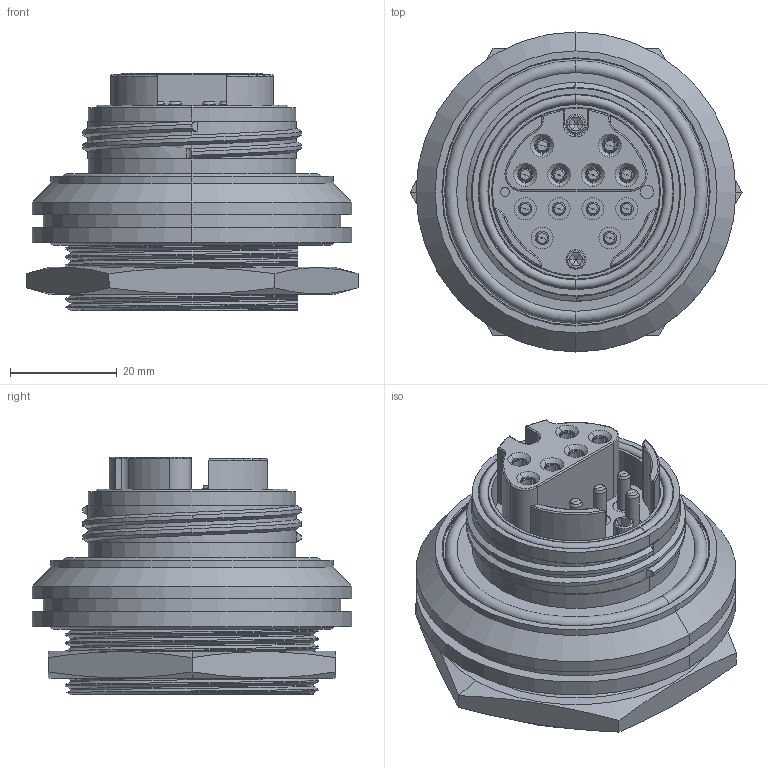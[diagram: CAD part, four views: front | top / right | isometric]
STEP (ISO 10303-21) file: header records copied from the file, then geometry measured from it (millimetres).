
FILE_DESCRIPTION (( 'STEP AP214' ), '1' );
FILE_NAME ('QFOCA-RJXX-12CH-X-S0X.STEP', '2025-06-09T20:14:26', ( '' ), ( '' ), 'SwSTEP 2.0', 'SolidWorks 2024', '' );
FILE_SCHEMA (( 'AUTOMOTIVE_DESIGN' ));
Length unit declared in the file: inch
Products named in the file (1): QFOCA-RJXX-12CH-X-S0X
Bounding box: 62.33 x 60.07 x 44.5 mm (x, y, z)
Volume: 64908.5 mm3; surface area: 28959.3 mm2
Topology: 10 solids, 12 shells, 681 faces, 1579 edges, 988 vertices
Faces by surface type: cylinder 289, plane 167, torus 108, cone 83, bspline 34
Entity records: 29439 total; most frequent: CARTESIAN_POINT 14075, DIRECTION 3274, ORIENTED_EDGE 3158, EDGE_CURVE 1579, AXIS2_PLACEMENT_3D 1362, VERTEX_POINT 988, EDGE_LOOP 763, CIRCLE 714
